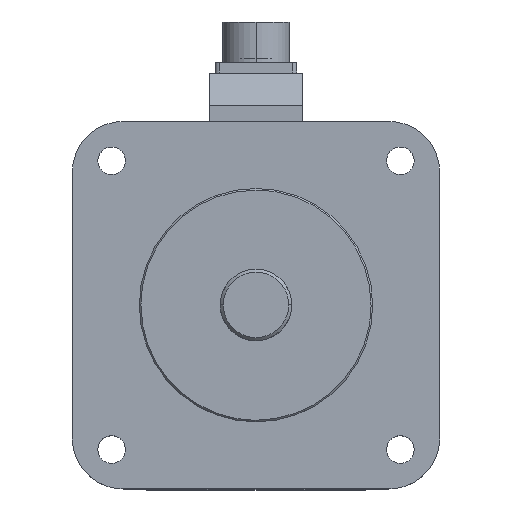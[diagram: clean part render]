
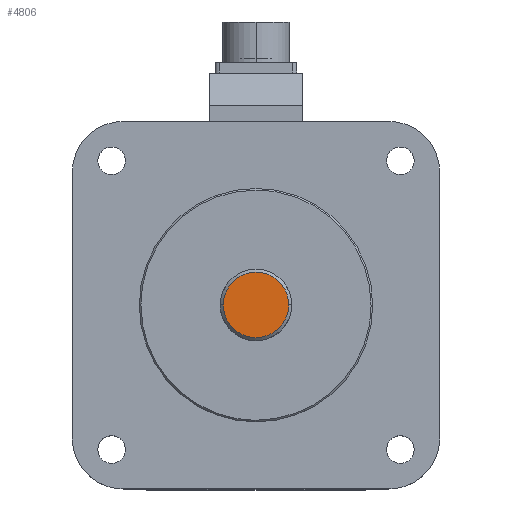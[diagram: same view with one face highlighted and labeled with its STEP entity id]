
A CAD part, top view. The second image highlights one B-rep face of the part: STEP entity #4806.
In plain terms, the highlighted free-form (B-spline) face has degree [1, 1] with [2, 2] control points.
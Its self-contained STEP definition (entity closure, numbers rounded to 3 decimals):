
#384 = CARTESIAN_POINT ( 'NONE',  ( 9.833, 12.795, 99. ) ) ;
#1046 = CARTESIAN_POINT ( 'NONE',  ( -8.058, -13.981, 99. ) ) ;
#1267 = CARTESIAN_POINT ( 'NONE',  ( -2.094, -16., 99. ) ) ;
#3206 = CARTESIAN_POINT ( 'NONE',  ( 16.192, -16.192, 99. ) ) ;
#3612 = VERTEX_POINT ( 'NONE', #57544 ) ;
#4806 = ADVANCED_FACE ( 'NONE', ( #10385 ), #59944, .F. ) ;
#5318 = CARTESIAN_POINT ( 'NONE',  ( 8.058, 13.981, 99. ) ) ;
#6912 = CARTESIAN_POINT ( 'NONE',  ( 2.094, -16., 99. ) ) ;
#6954 = CARTESIAN_POINT ( 'NONE',  ( 0., 16., 99. ) ) ;
#7563 = CARTESIAN_POINT ( 'NONE',  ( -16., 0., 99. ) ) ;
#10262 = CARTESIAN_POINT ( 'NONE',  ( 2.094, 16., 99. ) ) ;
#10385 = FACE_OUTER_BOUND ( 'NONE', #44403, .T. ) ;
#11125 = CARTESIAN_POINT ( 'NONE',  ( -4.188, -15.584, 99. ) ) ;
#11625 = CARTESIAN_POINT ( 'NONE',  ( 0., 16., 99. ) ) ;
#12491 = CARTESIAN_POINT ( 'NONE',  ( 4.188, -15.584, 99. ) ) ;
#13529 = B_SPLINE_CURVE_WITH_KNOTS ( 'NONE', 3,
 ( #11625, #16699, #52353, #21854, #26975, #17146, #32308, #53000, #22501, #7563 ),
 .UNSPECIFIED., .F., .F.,
 ( 4, 2, 2, 2, 4 ),
 ( 0., 0.125, 0.25, 0.375, 0.5 ),
 .UNSPECIFIED. ) ;
#14406 = ORIENTED_EDGE ( 'NONE', *, *, #47175, .F. ) ;
#16633 = CARTESIAN_POINT ( 'NONE',  ( -13.981, -8.058, 99. ) ) ;
#16699 = CARTESIAN_POINT ( 'NONE',  ( -2.094, 16., 99. ) ) ;
#16919 = CARTESIAN_POINT ( 'NONE',  ( 16., -2.094, 99. ) ) ;
#17146 = CARTESIAN_POINT ( 'NONE',  ( -12.795, 9.833, 99. ) ) ;
#17367 = CARTESIAN_POINT ( 'NONE',  ( 13.981, -8.058, 99. ) ) ;
#17586 = CARTESIAN_POINT ( 'NONE',  ( 12.795, -9.833, 99. ) ) ;
#20466 = CARTESIAN_POINT ( 'NONE',  ( 16., 0., 99. ) ) ;
#20902 = CARTESIAN_POINT ( 'NONE',  ( 13.981, 8.058, 99. ) ) ;
#21854 = CARTESIAN_POINT ( 'NONE',  ( -8.058, 13.981, 99. ) ) ;
#22501 = CARTESIAN_POINT ( 'NONE',  ( -16., 2.094, 99. ) ) ;
#25160 = CARTESIAN_POINT ( 'NONE',  ( 16., 2.094, 99. ) ) ;
#26925 = EDGE_CURVE ( 'NONE', #52759, #3612, #13529, .T. ) ;
#26975 = CARTESIAN_POINT ( 'NONE',  ( -9.833, 12.795, 99. ) ) ;
#27193 = CARTESIAN_POINT ( 'NONE',  ( 9.833, -12.795, 99. ) ) ;
#27610 = CARTESIAN_POINT ( 'NONE',  ( 15.584, -4.188, 99. ) ) ;
#30160 = VERTEX_POINT ( 'NONE', #41295 ) ;
#31554 = B_SPLINE_CURVE_WITH_KNOTS ( 'NONE', 3,
 ( #58148, #6912, #12491, #37664, #27193, #17586, #17367, #27610, #16919, #57931 ),
 .UNSPECIFIED., .F., .F.,
 ( 4, 2, 2, 2, 4 ),
 ( 0., 0.125, 0.25, 0.375, 0.5 ),
 .UNSPECIFIED. ) ;
#31607 = CARTESIAN_POINT ( 'NONE',  ( -16., 0., 99. ) ) ;
#32308 = CARTESIAN_POINT ( 'NONE',  ( -13.981, 8.058, 99. ) ) ;
#32474 = VERTEX_POINT ( 'NONE', #35899 ) ;
#34654 = B_SPLINE_CURVE_WITH_KNOTS ( 'NONE', 3,
 ( #31607, #46745, #57433, #16633, #36074, #41851, #1046, #11125, #1267, #52287 ),
 .UNSPECIFIED., .F., .F.,
 ( 4, 2, 2, 2, 4 ),
 ( 0.5, 0.625, 0.75, 0.875, 1. ),
 .UNSPECIFIED. ) ;
#35899 = CARTESIAN_POINT ( 'NONE',  ( 0., -16., 99. ) ) ;
#36063 = CARTESIAN_POINT ( 'NONE',  ( 4.188, 15.584, 99. ) ) ;
#36074 = CARTESIAN_POINT ( 'NONE',  ( -12.795, -9.833, 99. ) ) ;
#37664 = CARTESIAN_POINT ( 'NONE',  ( 8.058, -13.981, 99. ) ) ;
#38875 = CARTESIAN_POINT ( 'NONE',  ( -16.192, 16.192, 99. ) ) ;
#40535 = CARTESIAN_POINT ( 'NONE',  ( 12.795, 9.833, 99. ) ) ;
#41295 = CARTESIAN_POINT ( 'NONE',  ( 16., 0., 99. ) ) ;
#41851 = CARTESIAN_POINT ( 'NONE',  ( -9.833, -12.795, 99. ) ) ;
#43993 = CARTESIAN_POINT ( 'NONE',  ( 16.192, 16.192, 99. ) ) ;
#44207 = CARTESIAN_POINT ( 'NONE',  ( -16.192, -16.192, 99. ) ) ;
#44403 = EDGE_LOOP ( 'NONE', ( #52438, #14406, #59078, #51002 ) ) ;
#45331 = EDGE_CURVE ( 'NONE', #32474, #30160, #31554, .T. ) ;
#45635 = EDGE_CURVE ( 'NONE', #30160, #52759, #57595, .T. ) ;
#46745 = CARTESIAN_POINT ( 'NONE',  ( -16., -2.094, 99. ) ) ;
#47175 = EDGE_CURVE ( 'NONE', #3612, #32474, #34654, .T. ) ;
#51002 = ORIENTED_EDGE ( 'NONE', *, *, #45635, .F. ) ;
#52287 = CARTESIAN_POINT ( 'NONE',  ( 0., -16., 99. ) ) ;
#52353 = CARTESIAN_POINT ( 'NONE',  ( -4.188, 15.584, 99. ) ) ;
#52438 = ORIENTED_EDGE ( 'NONE', *, *, #45331, .F. ) ;
#52759 = VERTEX_POINT ( 'NONE', #6954 ) ;
#53000 = CARTESIAN_POINT ( 'NONE',  ( -15.584, 4.188, 99. ) ) ;
#56317 = CARTESIAN_POINT ( 'NONE',  ( 15.584, 4.188, 99. ) ) ;
#57433 = CARTESIAN_POINT ( 'NONE',  ( -15.584, -4.188, 99. ) ) ;
#57544 = CARTESIAN_POINT ( 'NONE',  ( -16., 0., 99. ) ) ;
#57595 = B_SPLINE_CURVE_WITH_KNOTS ( 'NONE', 3,
 ( #20466, #25160, #56317, #20902, #40535, #384, #5318, #36063, #10262, #66195 ),
 .UNSPECIFIED., .F., .F.,
 ( 4, 2, 2, 2, 4 ),
 ( 0.5, 0.625, 0.75, 0.875, 1. ),
 .UNSPECIFIED. ) ;
#57931 = CARTESIAN_POINT ( 'NONE',  ( 16., 0., 99. ) ) ;
#58148 = CARTESIAN_POINT ( 'NONE',  ( 0., -16., 99. ) ) ;
#59078 = ORIENTED_EDGE ( 'NONE', *, *, #26925, .F. ) ;
#59944 = B_SPLINE_SURFACE_WITH_KNOTS ( 'NONE', 1, 1, ( 
 ( #3206, #44207 ),
 ( #43993, #38875 ) ),
 .UNSPECIFIED., .F., .F., .F.,
 ( 2, 2 ),
 ( 2, 2 ),
 ( 0., 1. ),
 ( 0., 1. ),
 .UNSPECIFIED. ) ;
#66195 = CARTESIAN_POINT ( 'NONE',  ( 0., 16., 99. ) ) ;
